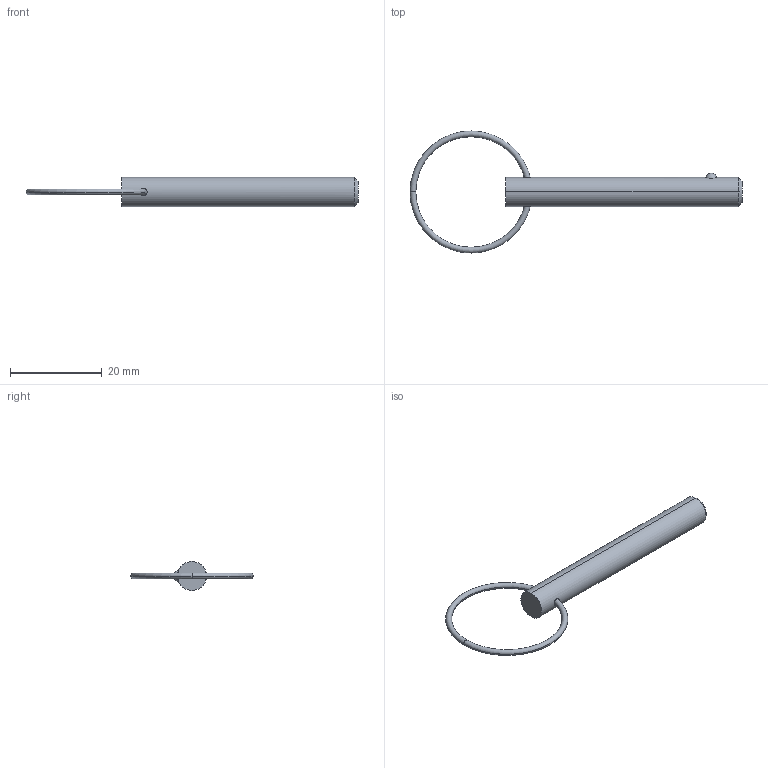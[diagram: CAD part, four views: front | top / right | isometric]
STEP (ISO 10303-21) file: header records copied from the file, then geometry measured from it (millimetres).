
FILE_DESCRIPTION (( 'STEP AP203' ), '1' );
FILE_NAME ('33012.W2515.step', '2024-11-01T14:07:02', ( '' ), ( '' ), 'SwSTEP 2.0', 'SolidWorks 2019', '' );
FILE_SCHEMA (( 'CONFIG_CONTROL_DESIGN' ));
Length unit declared in the file: millimetre
Products named in the file (3): Part2_33012.W2515; 33012.W2515; Part1_33012.W2515
Assembly tree (2 placements, depth 2):
  33012.W2515
    Part1_33012.W2515
    Part2_33012.W2515
Bounding box: 72.47 x 26.67 x 6.35 mm (x, y, z)
Volume: 1719.8 mm3; surface area: 1431.8 mm2
Topology: 2 solids, 2 shells, 16 faces, 31 edges, 18 vertices
Faces by surface type: torus 8, sphere 2, cone 2, cylinder 2, plane 2
Entity records: 811 total; most frequent: CARTESIAN_POINT 168, DIRECTION 88, ORIENTED_EDGE 62, AXIS2_PLACEMENT_3D 42, EDGE_CURVE 31, PERSON_AND_ORGANIZATION 26, CIRCLE 21, LOCAL_TIME 19
